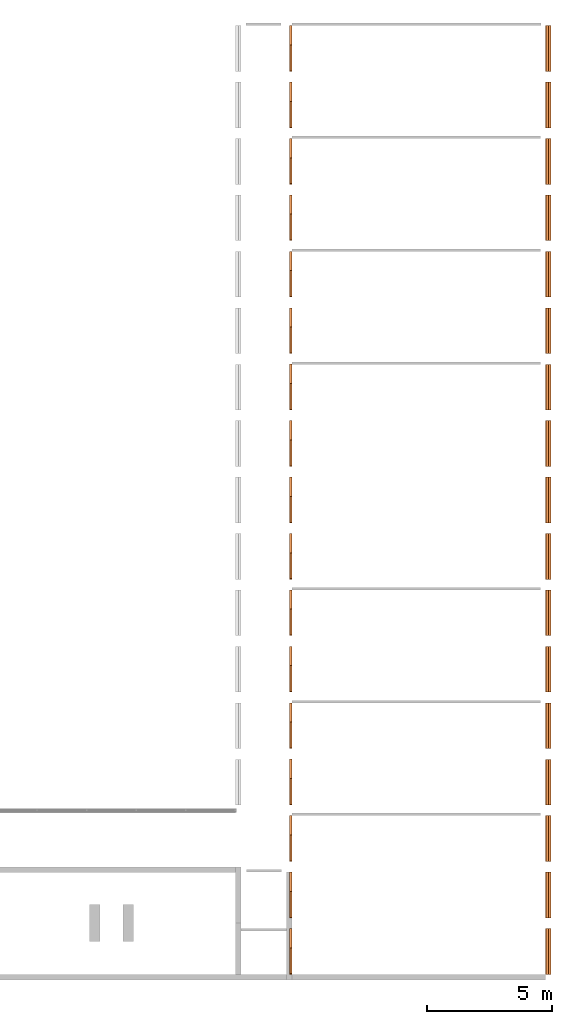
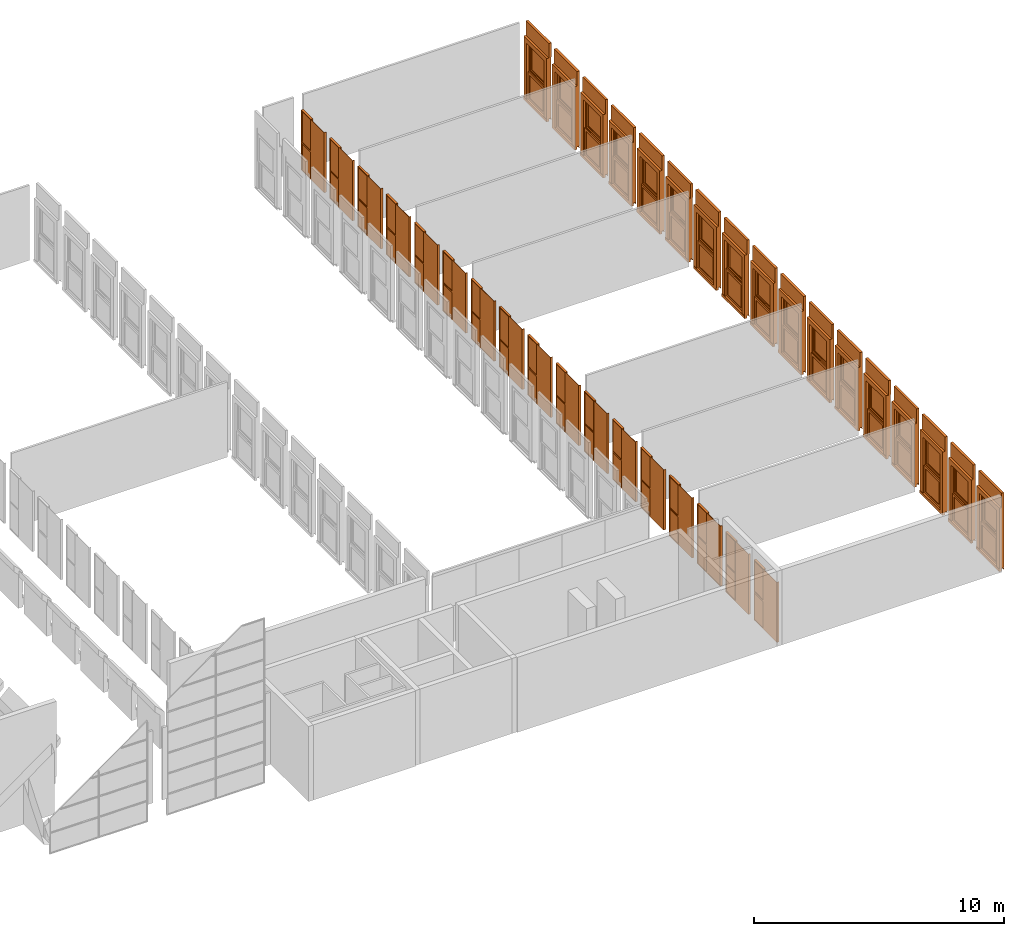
# One storey, part 16 of 16: 34 proxies.
"""IFC2X3 building model written with IfcOpenShell, lengths in millimetres."""

from ifc_helpers import new_model, entity, si_unit, converted_unit, derived_unit, direction, frame, frame_2d, origin, origin_2d_with_axis, place, context, subcontext, project, spatial, polyline, rectangle, outline, extrude, source, transform, mapped, material, material_list, type_object, type_shapes, element, save


model = new_model("IFC2X3")

# Units and contexts
model_context = context("Model", 3, precision=0.01, world=origin(), true_north=direction((6.12303176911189e-17, 1.0)))
body_context = subcontext(model_context, "Body", "Model", "MODEL_VIEW")
ifc_project = project(units=[si_unit("LENGTHUNIT", "METRE", prefix="MILLI"), si_unit("AREAUNIT", "SQUARE_METRE"), si_unit("VOLUMEUNIT", "CUBIC_METRE"), converted_unit("PLANEANGLEUNIT", "DEGREE", entity("IfcRatioMeasure", 0.0174532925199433), si_unit("PLANEANGLEUNIT", "RADIAN"), dimensions=[0, 0, 0, 0, 0, 0, 0]), si_unit("MASSUNIT", "GRAM", prefix="KILO"), derived_unit("MASSDENSITYUNIT", [(si_unit("MASSUNIT", "GRAM", prefix="KILO"), 1), (si_unit("LENGTHUNIT", "METRE"), -3)]), derived_unit("MOMENTOFINERTIAUNIT", [(si_unit("LENGTHUNIT", "METRE"), 4)]), si_unit("TIMEUNIT", "SECOND"), si_unit("FREQUENCYUNIT", "HERTZ"), si_unit("THERMODYNAMICTEMPERATUREUNIT", "DEGREE_CELSIUS"), derived_unit("THERMALTRANSMITTANCEUNIT", [(si_unit("MASSUNIT", "GRAM", prefix="KILO"), 1), (si_unit("THERMODYNAMICTEMPERATUREUNIT", "KELVIN"), -1), (si_unit("TIMEUNIT", "SECOND"), -3)]), derived_unit("VOLUMETRICFLOWRATEUNIT", [(si_unit("LENGTHUNIT", "METRE"), 3), (si_unit("TIMEUNIT", "SECOND"), -1)]), si_unit("ELECTRICCURRENTUNIT", "AMPERE"), si_unit("ELECTRICVOLTAGEUNIT", "VOLT"), si_unit("POWERUNIT", "WATT"), si_unit("FORCEUNIT", "NEWTON", prefix="KILO"), si_unit("ILLUMINANCEUNIT", "LUX"), si_unit("LUMINOUSFLUXUNIT", "LUMEN"), si_unit("LUMINOUSINTENSITYUNIT", "CANDELA"), derived_unit("USERDEFINED", [(si_unit("MASSUNIT", "GRAM", prefix="KILO"), -1), (si_unit("LENGTHUNIT", "METRE"), -2), (si_unit("TIMEUNIT", "SECOND"), 3), (si_unit("LUMINOUSFLUXUNIT", "LUMEN"), 1)]), derived_unit("LINEARVELOCITYUNIT", [(si_unit("LENGTHUNIT", "METRE"), 1), (si_unit("TIMEUNIT", "SECOND"), -1)]), si_unit("PRESSUREUNIT", "PASCAL"), derived_unit("USERDEFINED", [(si_unit("LENGTHUNIT", "METRE"), -2), (si_unit("MASSUNIT", "GRAM", prefix="KILO"), 1), (si_unit("TIMEUNIT", "SECOND"), -2)]), derived_unit("LINEARFORCEUNIT", [(si_unit("MASSUNIT", "GRAM", prefix="KILO"), 1), (si_unit("LENGTHUNIT", "METRE"), 1), (si_unit("TIMEUNIT", "SECOND"), -2), (si_unit("LENGTHUNIT", "METRE"), -1)]), derived_unit("PLANARFORCEUNIT", [(si_unit("MASSUNIT", "GRAM", prefix="KILO"), 1), (si_unit("LENGTHUNIT", "METRE"), 1), (si_unit("TIMEUNIT", "SECOND"), -2), (si_unit("LENGTHUNIT", "METRE"), -2)])], contexts=[model_context])

# Site, building, storey
site_placement = place(None, frame((10627.5135316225, 21939.0796949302, 0.0)))
site = spatial("IfcSite", under=ifc_project, at=site_placement, Name="Default", CompositionType="ELEMENT")
building_placement = place(site_placement, origin())
building = spatial("IfcBuilding", under=site, at=building_placement, CompositionType="ELEMENT")
storey_placement = place(building_placement, frame((0.0, 0.0, 3660.0)))
storey = spatial("IfcBuildingStorey", under=building, at=storey_placement, Name="R+1", CompositionType="ELEMENT", Elevation=3660.0)

# Proxies
ifc_material_1 = material(Name="PVC, Flexible")
ifc_material_2 = material(Name="Glass")
ifc_material_list_1 = material_list([ifc_material_1, ifc_material_2])
building_element_proxy_type_1 = type_object("IfcBuildingElementProxyType", Name="FENETRE.dwg:Fenetre ext 296+70", PredefinedType="NOTDEFINED", material=ifc_material_1)
shared_shape_1 = source(origin(), body_context, "Body", "SweptSolid", [
    extrude(rectangle(XDim=112.500043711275, YDim=1829.99999999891, at=origin_2d_with_axis()), frame((-10.4189092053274, -56.2500218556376, 2960.0), z_axis=(0.0, 0.0, 1.0), x_axis=(0.0, 1.0, 0.0)), (0.0, 0.0, 1.0), 700.0),
    extrude(outline(polyline([(27.5499763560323, -64.4170494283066), (47.5499763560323, -64.4170494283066), (47.5499763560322, -59.4170494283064), (28.7622905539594, -59.4170494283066), (7.54997635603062, 46.6946996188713), (-42.4500236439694, 46.6946996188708), (-42.4500236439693, 32.9446996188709), (-39.9500236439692, 32.9446996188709), (-39.9500236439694, 44.1946996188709), (5.83789859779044, 44.1946996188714), (27.5499763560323, -64.4170494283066)])), frame((-925.418909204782, -66.917049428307, -47.5499763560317), z_axis=(1.0, 0.0, 0.0), x_axis=(0.0, 0.0, 1.0)), (0.0, 0.0, 1.0), 1829.99999999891),
    extrude(outline(polyline([(-54.506636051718, -66.1431859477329), (58.0333803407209, -66.1431859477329), (54.4666704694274, 67.6422744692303), (-57.9934147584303, 64.6440974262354), (-54.506636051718, -66.1431859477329)])), frame((-925.418909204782, 56.2500218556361, -63.833312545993), z_axis=(1.0, 0.0, 0.0), x_axis=(0.0, -0.999644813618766, 0.0266504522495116)), (0.0, 0.0, 1.0), 1829.99999999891),
    extrude(outline(polyline([(-97.0007159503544, -55.5555555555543), (5.85738417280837, -55.5555555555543), (95.357341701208, -55.5555555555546), (95.357341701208, -45.5555555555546), (105.357341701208, -45.5555555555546), (105.357341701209, 174.444444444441), (-106.642659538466, 174.444444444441), (-106.642659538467, -45.5555555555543), (-97.0007159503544, -45.5555555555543), (-97.0007159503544, -55.5555555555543)])), frame((849.025535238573, -5.85738417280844, 0.0), z_axis=(0.0, 0.0, 1.0), x_axis=(0.0, 1.0, 0.0)), (0.0, 0.0, 1.0), 2960.0),
    extrude(rectangle(XDim=1369.99999999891, YDim=199.499957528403, at=origin_2d_with_axis()), frame((-10.4189092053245, -0.250021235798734, 2730.0), z_axis=(0.0, 0.0, 1.0), x_axis=(-1.0, 0.0, 0.0)), (0.0, 0.0, 1.0), 230.000000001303),
    extrude(outline(polyline([(-55.5555555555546, 97.0007159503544), (-55.5555555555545, -5.85738417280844), (-55.5555555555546, -95.357341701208), (-45.5555555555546, -95.3573417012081), (-45.5555555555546, -105.357341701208), (174.444444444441, -105.357341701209), (174.444444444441, 106.642659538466), (-45.5555555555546, 106.642659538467), (-45.5555555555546, 97.0007159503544), (-55.5555555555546, 97.0007159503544)])), frame((-869.863353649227, -5.85738417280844, 0.0), z_axis=(0.0, 0.0, -1.0), x_axis=(1.0, 0.0, 0.0)), (0.0, 0.0, -1.0), 2960.0),
    extrude(rectangle(XDim=1079.99999999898, YDim=1.0, at=origin_2d_with_axis()), frame((-10.4189092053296, 19.5, 130.0), z_axis=(0.0, 0.0, 1.0), x_axis=(-1.0, 0.0, 0.0)), (0.0, 0.0, 1.0), 1120.00000000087),
    extrude(rectangle(XDim=1079.99999999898, YDim=1.0, at=origin_2d_with_axis()), frame((-10.4189092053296, 30.5, 130.0), z_axis=(0.0, 0.0, 1.0), x_axis=(-1.0, 0.0, 0.0)), (0.0, 0.0, 1.0), 1120.00000000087),
    extrude(rectangle(XDim=1079.99999999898, YDim=1.0, at=frame_2d((0.0, 4.21884749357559e-15), x_axis=(1.0, 0.0))), frame((-10.4189092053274, -69.5, 1465.0), z_axis=(0.0, 0.0, 1.0), x_axis=(-1.0, 0.0, 0.0)), (0.0, 0.0, 1.0), 1120.0),
    extrude(rectangle(XDim=1079.99999999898, YDim=0.999999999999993, at=frame_2d((0.0, -8.46545056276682e-15), x_axis=(1.0, 0.0))), frame((-10.4189092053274, -80.5, 1465.0), z_axis=(0.0, 0.0, 1.0), x_axis=(-1.0, 0.0, 0.0)), (0.0, 0.0, 1.0), 1120.00000000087),
    extrude(outline(polyline([(-685.0, -1365.0), (0.0, -1365.0), (685.0, -1365.0), (685.0, 1365.0), (0.0, 1365.0), (-685.0, 1365.0), (-685.0, -1365.0)]), holes=[polyline([(-640.0, -1320.0), (-640.0, -45.0), (0.0, -45.0), (640.0, -45.0), (640.0, -1320.0), (0.0, -1320.0), (-640.0, -1320.0)]), polyline([(-640.0, 40.0), (-640.0, 1315.0), (0.0, 1315.0), (640.0, 1315.0), (640.0, 40.0), (0.0, 40.0), (-640.0, 40.0)])]), frame((-10.4189092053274, -50.0, 1365.0), z_axis=(0.0, 1.0, 0.0), x_axis=(1.0, 0.0, 0.0)), (0.0, 0.0, 1.0), 50.0),
    extrude(outline(polyline([(-655.0, -667.500000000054), (655.0, -667.500000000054), (655.0, 667.500000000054), (-655.0, 667.500000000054), (-655.0, -667.500000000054)]), holes=[polyline([(-540.0, 552.500000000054), (540.0, 552.500000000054), (540.0, -567.500000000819), (-540.0, -567.500000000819), (-540.0, 552.500000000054)])]), frame((-10.4189092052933, 0.0, 697.500000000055), z_axis=(0.0, 1.0, 0.0), x_axis=(-1.0, 0.0, 0.0)), (0.0, 0.0, 1.0), 50.0),
    extrude(outline(polyline([(-655.0, -667.500000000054), (655.0, -667.500000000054), (655.0, 667.500000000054), (-655.0, 667.500000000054), (-655.0, -667.500000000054)]), holes=[polyline([(-540.0, 552.500000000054), (540.0, 552.500000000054), (540.0, -567.500000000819), (-540.0, -567.500000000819), (-540.0, 552.500000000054)])]), frame((-10.4189092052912, -100.0, 2032.50000000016), z_axis=(0.0, 1.0, 0.0), x_axis=(-1.0, 0.0, 0.0)), (0.0, 0.0, 1.0), 50.0),
])
type_shapes(building_element_proxy_type_1, [shared_shape_1])
proxy_1_placement = place(storey_placement, frame((63883.8747193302, 15361.3392142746, 0.0), z_axis=(0.0, 0.0, 1.0), x_axis=(0.0, 1.0, 0.0)))
element("IfcBuildingElementProxy", 1, at=proxy_1_placement, inside=storey, type_object=building_element_proxy_type_1, material=ifc_material_list_1, Name="FENETRE.dwg:Fenetre ext 296+70", ObjectType="FENETRE.dwg:Fenetre ext 296+70", context=body_context, shape_type="MappedRepresentation", body=[
    mapped(shared_shape_1, transform((0.0, 0.0, 0.0), scale=1.0)),
])
ifc_material_list_2 = material_list([ifc_material_1, ifc_material_2])
proxy_2_placement = place(storey_placement, frame((63883.8747193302, 13101.3392142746, 0.0), z_axis=(0.0, 0.0, 1.0), x_axis=(0.0, 1.0, 0.0)))
element("IfcBuildingElementProxy", 2, at=proxy_2_placement, inside=storey, type_object=building_element_proxy_type_1, material=ifc_material_list_2, Name="FENETRE.dwg:Fenetre ext 296+70", ObjectType="FENETRE.dwg:Fenetre ext 296+70", context=body_context, shape_type="MappedRepresentation", body=[
    mapped(shared_shape_1, transform((0.0, 0.0, 0.0), scale=1.0)),
])
ifc_material_list_3 = material_list([ifc_material_1, ifc_material_2])
proxy_3_placement = place(storey_placement, frame((63883.8747193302, 10841.3392142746, 0.0), z_axis=(0.0, 0.0, 1.0), x_axis=(0.0, 1.0, 0.0)))
element("IfcBuildingElementProxy", 3, at=proxy_3_placement, inside=storey, type_object=building_element_proxy_type_1, material=ifc_material_list_3, Name="FENETRE.dwg:Fenetre ext 296+70", ObjectType="FENETRE.dwg:Fenetre ext 296+70", context=body_context, shape_type="MappedRepresentation", body=[
    mapped(shared_shape_1, transform((0.0, 0.0, 0.0), scale=1.0)),
])
ifc_material_list_4 = material_list([ifc_material_1, ifc_material_2])
proxy_4_placement = place(storey_placement, frame((63883.8747193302, 8581.33921427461, 0.0), z_axis=(0.0, 0.0, 1.0), x_axis=(0.0, 1.0, 0.0)))
element("IfcBuildingElementProxy", 4, at=proxy_4_placement, inside=storey, type_object=building_element_proxy_type_1, material=ifc_material_list_4, Name="FENETRE.dwg:Fenetre ext 296+70", ObjectType="FENETRE.dwg:Fenetre ext 296+70", context=body_context, shape_type="MappedRepresentation", body=[
    mapped(shared_shape_1, transform((0.0, 0.0, 0.0), scale=1.0)),
])
ifc_material_list_5 = material_list([ifc_material_1, ifc_material_2])
proxy_5_placement = place(storey_placement, frame((63883.8747193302, 6321.33921427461, 0.0), z_axis=(0.0, 0.0, 1.0), x_axis=(0.0, 1.0, 0.0)))
element("IfcBuildingElementProxy", 5, at=proxy_5_placement, inside=storey, type_object=building_element_proxy_type_1, material=ifc_material_list_5, Name="FENETRE.dwg:Fenetre ext 296+70", ObjectType="FENETRE.dwg:Fenetre ext 296+70", context=body_context, shape_type="MappedRepresentation", body=[
    mapped(shared_shape_1, transform((0.0, 0.0, 0.0), scale=1.0)),
])
ifc_material_list_6 = material_list([ifc_material_1, ifc_material_2])
proxy_6_placement = place(storey_placement, frame((63883.8747193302, 4061.33921427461, 0.0), z_axis=(0.0, 0.0, 1.0), x_axis=(0.0, 1.0, 0.0)))
element("IfcBuildingElementProxy", 6, at=proxy_6_placement, inside=storey, type_object=building_element_proxy_type_1, material=ifc_material_list_6, Name="FENETRE.dwg:Fenetre ext 296+70", ObjectType="FENETRE.dwg:Fenetre ext 296+70", context=body_context, shape_type="MappedRepresentation", body=[
    mapped(shared_shape_1, transform((0.0, 0.0, 0.0), scale=1.0)),
])
ifc_material_list_7 = material_list([ifc_material_1, ifc_material_2])
proxy_7_placement = place(storey_placement, frame((63883.8747193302, 1801.33921427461, 0.0), z_axis=(0.0, 0.0, 1.0), x_axis=(0.0, 1.0, 0.0)))
element("IfcBuildingElementProxy", 7, at=proxy_7_placement, inside=storey, type_object=building_element_proxy_type_1, material=ifc_material_list_7, Name="FENETRE.dwg:Fenetre ext 296+70", ObjectType="FENETRE.dwg:Fenetre ext 296+70", context=body_context, shape_type="MappedRepresentation", body=[
    mapped(shared_shape_1, transform((0.0, 0.0, 0.0), scale=1.0)),
])
ifc_material_list_8 = material_list([ifc_material_1, ifc_material_2])
proxy_8_placement = place(storey_placement, frame((63883.8747193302, -458.660785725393, 0.0), z_axis=(0.0, 0.0, 1.0), x_axis=(0.0, 1.0, 0.0)))
element("IfcBuildingElementProxy", 8, at=proxy_8_placement, inside=storey, type_object=building_element_proxy_type_1, material=ifc_material_list_8, Name="FENETRE.dwg:Fenetre ext 296+70", ObjectType="FENETRE.dwg:Fenetre ext 296+70", context=body_context, shape_type="MappedRepresentation", body=[
    mapped(shared_shape_1, transform((0.0, 0.0, 0.0), scale=1.0)),
])
ifc_material_list_9 = material_list([ifc_material_1, ifc_material_2])
proxy_9_placement = place(storey_placement, frame((63883.8747193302, -2718.66078572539, 0.0), z_axis=(0.0, 0.0, 1.0), x_axis=(0.0, 1.0, 0.0)))
element("IfcBuildingElementProxy", 9, at=proxy_9_placement, inside=storey, type_object=building_element_proxy_type_1, material=ifc_material_list_9, Name="FENETRE.dwg:Fenetre ext 296+70", ObjectType="FENETRE.dwg:Fenetre ext 296+70", context=body_context, shape_type="MappedRepresentation", body=[
    mapped(shared_shape_1, transform((0.0, 0.0, 0.0), scale=1.0)),
])
ifc_material_list_10 = material_list([ifc_material_1, ifc_material_2])
proxy_10_placement = place(storey_placement, frame((63883.8747193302, -4978.6607857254, 0.0), z_axis=(0.0, 0.0, 1.0), x_axis=(0.0, 1.0, 0.0)))
element("IfcBuildingElementProxy", 10, at=proxy_10_placement, inside=storey, type_object=building_element_proxy_type_1, material=ifc_material_list_10, Name="FENETRE.dwg:Fenetre ext 296+70", ObjectType="FENETRE.dwg:Fenetre ext 296+70", context=body_context, shape_type="MappedRepresentation", body=[
    mapped(shared_shape_1, transform((0.0, 0.0, 0.0), scale=1.0)),
])
ifc_material_list_11 = material_list([ifc_material_1, ifc_material_2])
proxy_11_placement = place(storey_placement, frame((63883.8747193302, -7238.6607857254, 0.0), z_axis=(0.0, 0.0, 1.0), x_axis=(0.0, 1.0, 0.0)))
element("IfcBuildingElementProxy", 11, at=proxy_11_placement, inside=storey, type_object=building_element_proxy_type_1, material=ifc_material_list_11, Name="FENETRE.dwg:Fenetre ext 296+70", ObjectType="FENETRE.dwg:Fenetre ext 296+70", context=body_context, shape_type="MappedRepresentation", body=[
    mapped(shared_shape_1, transform((0.0, 0.0, 0.0), scale=1.0)),
])
ifc_material_list_12 = material_list([ifc_material_1, ifc_material_2])
proxy_12_placement = place(storey_placement, frame((63883.8747193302, -9498.6607857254, 0.0), z_axis=(0.0, 0.0, 1.0), x_axis=(0.0, 1.0, 0.0)))
element("IfcBuildingElementProxy", 12, at=proxy_12_placement, inside=storey, type_object=building_element_proxy_type_1, material=ifc_material_list_12, Name="FENETRE.dwg:Fenetre ext 296+70", ObjectType="FENETRE.dwg:Fenetre ext 296+70", context=body_context, shape_type="MappedRepresentation", body=[
    mapped(shared_shape_1, transform((0.0, 0.0, 0.0), scale=1.0)),
])
ifc_material_list_13 = material_list([ifc_material_1, ifc_material_2])
proxy_13_placement = place(storey_placement, frame((63883.8747193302, -11758.6607857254, 0.0), z_axis=(0.0, 0.0, 1.0), x_axis=(0.0, 1.0, 0.0)))
element("IfcBuildingElementProxy", 13, at=proxy_13_placement, inside=storey, type_object=building_element_proxy_type_1, material=ifc_material_list_13, Name="FENETRE.dwg:Fenetre ext 296+70", ObjectType="FENETRE.dwg:Fenetre ext 296+70", context=body_context, shape_type="MappedRepresentation", body=[
    mapped(shared_shape_1, transform((0.0, 0.0, 0.0), scale=1.0)),
])
ifc_material_list_14 = material_list([ifc_material_1, ifc_material_2])
proxy_14_placement = place(storey_placement, frame((63883.8747193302, -14018.6607857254, 0.0), z_axis=(0.0, 0.0, 1.0), x_axis=(0.0, 1.0, 0.0)))
element("IfcBuildingElementProxy", 14, at=proxy_14_placement, inside=storey, type_object=building_element_proxy_type_1, material=ifc_material_list_14, Name="FENETRE.dwg:Fenetre ext 296+70", ObjectType="FENETRE.dwg:Fenetre ext 296+70", context=body_context, shape_type="MappedRepresentation", body=[
    mapped(shared_shape_1, transform((0.0, 0.0, 0.0), scale=1.0)),
])
ifc_material_list_15 = material_list([ifc_material_1, ifc_material_2])
proxy_15_placement = place(storey_placement, frame((63883.8747193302, -16278.6607857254, 0.0), z_axis=(0.0, 0.0, 1.0), x_axis=(0.0, 1.0, 0.0)))
element("IfcBuildingElementProxy", 15, at=proxy_15_placement, inside=storey, type_object=building_element_proxy_type_1, material=ifc_material_list_15, Name="FENETRE.dwg:Fenetre ext 296+70", ObjectType="FENETRE.dwg:Fenetre ext 296+70", context=body_context, shape_type="MappedRepresentation", body=[
    mapped(shared_shape_1, transform((0.0, 0.0, 0.0), scale=1.0)),
])
ifc_material_list_16 = material_list([ifc_material_1, ifc_material_2])
proxy_16_placement = place(storey_placement, frame((63883.8747193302, -18538.6607857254, 0.0), z_axis=(0.0, 0.0, 1.0), x_axis=(0.0, 1.0, 0.0)))
element("IfcBuildingElementProxy", 16, at=proxy_16_placement, inside=storey, type_object=building_element_proxy_type_1, material=ifc_material_list_16, Name="FENETRE.dwg:Fenetre ext 296+70", ObjectType="FENETRE.dwg:Fenetre ext 296+70", context=body_context, shape_type="MappedRepresentation", body=[
    mapped(shared_shape_1, transform((0.0, 0.0, 0.0), scale=1.0)),
])
ifc_material_list_17 = material_list([ifc_material_1, ifc_material_2])
proxy_17_placement = place(storey_placement, frame((63883.8747193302, -20798.6607857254, 0.0), z_axis=(0.0, 0.0, 1.0), x_axis=(0.0, 1.0, 0.0)))
element("IfcBuildingElementProxy", 17, at=proxy_17_placement, inside=storey, type_object=building_element_proxy_type_1, material=ifc_material_list_17, Name="FENETRE.dwg:Fenetre ext 296+70", ObjectType="FENETRE.dwg:Fenetre ext 296+70", context=body_context, shape_type="MappedRepresentation", body=[
    mapped(shared_shape_1, transform((0.0, 0.0, 0.0), scale=1.0)),
])
ifc_material_3 = material(Name="Plywood, Sheathing")
ifc_material_list_18 = material_list([ifc_material_3, ifc_material_2])
building_element_proxy_type_2 = type_object("IfcBuildingElementProxyType", Name="Porte noire:Porte noire", PredefinedType="NOTDEFINED", material=ifc_material_3)
shared_shape_2 = source(origin(), body_context, "Body", "SweptSolid", [
    extrude(rectangle(XDim=23.0000000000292, YDim=100.0, at=frame_2d((-1.35891298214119e-13, 0.0), x_axis=(1.0, 0.0))), frame((-950.918997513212, 50.0, 8.73189890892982), z_axis=(0.0, 0.0, 1.0), x_axis=(-1.0, 0.0, 0.0)), (0.0, 0.0, 1.0), 2933.34951039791),
    extrude(rectangle(XDim=1038.0, YDim=19.0, at=frame_2d((0.0, 7.99360577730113e-15), x_axis=(1.0, 0.0))), frame((-420.418997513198, 87.5, 43.7318989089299), z_axis=(0.0, 0.0, 1.0), x_axis=(-1.0, 0.0, 0.0)), (0.0, 0.0, 1.0), 2898.5),
    extrude(rectangle(XDim=1775.0, YDim=100.0, at=origin_2d_with_axis()), frame((-51.9189975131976, 50.0, 8.73189890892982), z_axis=(0.0, 0.0, 1.0), x_axis=(-1.0, 0.0, 0.0)), (0.0, 0.0, 1.0), 35.0000000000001),
    extrude(rectangle(XDim=35.0000000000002, YDim=100.0, at=origin_2d_with_axis()), frame((853.081002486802, 50.0, 8.73189890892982), z_axis=(0.0, 0.0, 1.0), x_axis=(-1.0, 0.0, 0.0)), (0.0, 0.0, 1.0), 2898.5),
    extrude(rectangle(XDim=740.0, YDim=100.0, at=origin_2d_with_axis()), frame((500.581002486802, 50.0, 2907.23189890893), z_axis=(0.0, 0.0, 1.0), x_axis=(-1.0, 0.0, 0.0)), (0.0, 0.0, 1.0), 35.0000000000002),
    extrude(rectangle(XDim=31.9999999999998, YDim=100.0, at=origin_2d_with_axis()), frame((114.581002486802, 50.0, 43.7318989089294), z_axis=(0.0, 0.0, 1.0), x_axis=(-1.0, 0.0, 0.0)), (0.0, 0.0, 1.0), 2898.5),
    extrude(rectangle(XDim=705.0, YDim=100.0, at=origin_2d_with_axis()), frame((483.081002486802, 50.0, 1343.73189890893), z_axis=(0.0, 0.0, 1.0), x_axis=(-1.0, 0.0, 0.0)), (0.0, 0.0, 1.0), 55.0),
    extrude(outline(polyline([(-352.5, -650.0), (352.5, -650.0), (352.5, 650.0), (-352.5, 650.0), (-352.5, -650.0)]), holes=[polyline([(342.5, 640.0), (342.5, -640.0), (-342.5, -640.0), (-342.5, 640.0), (342.5, 640.0)])]), frame((483.081002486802, 10.0, 693.73189890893), z_axis=(0.0, 1.0, 0.0), x_axis=(1.0, 0.0, 0.0)), (0.0, 0.0, 1.0), 70.0),
    extrude(outline(polyline([(-754.25, -352.5), (754.25, -352.5), (754.25, 352.5), (-754.25, 352.5), (-754.25, -352.5)]), holes=[polyline([(744.25, 342.5), (744.25, -342.5), (-744.25, -342.5), (-744.25, 342.5), (744.25, 342.5)])]), frame((483.081002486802, 10.0, 2152.98189890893), z_axis=(0.0, 1.0, 0.0), x_axis=(0.0, 0.0, 1.0)), (0.0, 0.0, 1.0), 70.0),
    extrude(outline(polyline([(-640.0, -342.5), (640.0, -342.5), (640.0, 342.5), (-640.0, 342.5), (-640.0, -342.5)]), holes=[polyline([(630.0, 332.5), (630.0, -332.5), (-630.0, -332.5), (-630.0, 332.5), (630.0, 332.5)])]), frame((483.081002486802, 77.0, 693.731898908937), z_axis=(0.0, 1.0, 0.0), x_axis=(0.0, 0.0, 1.0)), (0.0, 0.0, 1.0), 3.99999999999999),
    extrude(outline(polyline([(-744.25, -342.5), (744.25, -342.5), (744.25, 342.5), (-744.25, 342.5), (-744.25, -342.5)]), holes=[polyline([(734.25, 332.5), (734.25, -332.5), (-734.25, -332.5), (-734.25, 332.5), (734.25, 332.5)])]), frame((483.081002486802, 77.0, 2152.98189890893), z_axis=(0.0, 1.0, 0.0), x_axis=(0.0, 0.0, 1.0)), (0.0, 0.0, 1.0), 3.99999999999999),
    extrude(outline(polyline([(-640.0, -342.5), (640.0, -342.5), (640.0, 342.5), (-640.0, 342.5), (-640.0, -342.5)]), holes=[polyline([(630.0, 332.5), (630.0, -332.5), (-630.0, -332.5), (-630.0, 332.5), (630.0, 332.5)])]), frame((483.081002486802, 10.0, 693.782575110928), z_axis=(0.0, 1.0, 0.0), x_axis=(0.0, 0.0, 1.0)), (0.0, 0.0, 1.0), 5.0),
    extrude(outline(polyline([(-744.25, -342.5), (744.25, -342.5), (744.25, 342.5), (-744.25, 342.5), (-744.25, -342.5)]), holes=[polyline([(734.25, 332.5), (734.25, -332.5), (-734.25, -332.5), (-734.25, 332.5), (734.25, 332.5)])]), frame((483.081002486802, 10.0, 2153.03257511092), z_axis=(0.0, 1.0, 0.0), x_axis=(0.0, 0.0, 1.0)), (0.0, 0.0, 1.0), 5.0),
    extrude(rectangle(XDim=665.0, YDim=2.0, at=frame_2d((0.0, 8.43769498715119e-15), x_axis=(1.0, 0.0))), frame((483.081002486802, 79.0, 1418.73189890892), z_axis=(0.0, 0.0, 1.0), x_axis=(-1.0, 0.0, 0.0)), (0.0, 0.0, 1.0), 1468.50000000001),
    extrude(rectangle(XDim=665.0, YDim=2.0, at=frame_2d((0.0, 8.43769498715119e-15), x_axis=(1.0, 0.0))), frame((483.081002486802, 79.0, 63.7318989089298), z_axis=(0.0, 0.0, 1.0), x_axis=(-1.0, 0.0, 0.0)), (0.0, 0.0, 1.0), 1260.0),
    extrude(rectangle(XDim=665.0, YDim=2.0, at=frame_2d((0.0, 1.0547118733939e-15), x_axis=(1.0, 0.0))), frame((483.081002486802, 13.0, 1418.78257511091), z_axis=(0.0, 0.0, 1.0), x_axis=(-1.0, 0.0, 0.0)), (0.0, 0.0, 1.0), 1468.50000000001),
    extrude(rectangle(XDim=665.0, YDim=2.0, at=frame_2d((0.0, 1.0547118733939e-15), x_axis=(1.0, 0.0))), frame((483.081002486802, 13.0, 63.7825751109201), z_axis=(0.0, 0.0, 1.0), x_axis=(-1.0, 0.0, 0.0)), (0.0, 0.0, 1.0), 1260.0),
])
type_shapes(building_element_proxy_type_2, [shared_shape_2])
proxy_18_placement = place(storey_placement, frame((53617.1264727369, -20762.660697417, 0.0), z_axis=(0.0, 0.0, 1.0), x_axis=(0.0, 1.0, 0.0)))
element("IfcBuildingElementProxy", 18, at=proxy_18_placement, inside=storey, type_object=building_element_proxy_type_2, material=ifc_material_list_18, Name="Porte noire:Porte noire", ObjectType="Porte noire:Porte noire", context=body_context, shape_type="MappedRepresentation", body=[
    mapped(shared_shape_2, transform((0.0, 0.0, 0.0), scale=1.0)),
])
ifc_material_list_19 = material_list([ifc_material_3, ifc_material_2])
proxy_19_placement = place(storey_placement, frame((53617.1264727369, -18502.660697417, 0.0), z_axis=(0.0, 0.0, 1.0), x_axis=(0.0, 1.0, 0.0)))
element("IfcBuildingElementProxy", 19, at=proxy_19_placement, inside=storey, type_object=building_element_proxy_type_2, material=ifc_material_list_19, Name="Porte noire:Porte noire", ObjectType="Porte noire:Porte noire", context=body_context, shape_type="MappedRepresentation", body=[
    mapped(shared_shape_2, transform((0.0, 0.0, 0.0), scale=1.0)),
])
ifc_material_list_20 = material_list([ifc_material_3, ifc_material_2])
proxy_20_placement = place(storey_placement, frame((53617.1264727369, -16242.660697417, 0.0), z_axis=(0.0, 0.0, 1.0), x_axis=(0.0, 1.0, 0.0)))
element("IfcBuildingElementProxy", 20, at=proxy_20_placement, inside=storey, type_object=building_element_proxy_type_2, material=ifc_material_list_20, Name="Porte noire:Porte noire", ObjectType="Porte noire:Porte noire", context=body_context, shape_type="MappedRepresentation", body=[
    mapped(shared_shape_2, transform((0.0, 0.0, 0.0), scale=1.0)),
])
ifc_material_list_21 = material_list([ifc_material_3, ifc_material_2])
proxy_21_placement = place(storey_placement, frame((53617.1264727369, -13982.660697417, 0.0), z_axis=(0.0, 0.0, 1.0), x_axis=(0.0, 1.0, 0.0)))
element("IfcBuildingElementProxy", 21, at=proxy_21_placement, inside=storey, type_object=building_element_proxy_type_2, material=ifc_material_list_21, Name="Porte noire:Porte noire", ObjectType="Porte noire:Porte noire", context=body_context, shape_type="MappedRepresentation", body=[
    mapped(shared_shape_2, transform((0.0, 0.0, 0.0), scale=1.0)),
])
ifc_material_list_22 = material_list([ifc_material_3, ifc_material_2])
proxy_22_placement = place(storey_placement, frame((53617.1264727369, -11722.660697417, 0.0), z_axis=(0.0, 0.0, 1.0), x_axis=(0.0, 1.0, 0.0)))
element("IfcBuildingElementProxy", 22, at=proxy_22_placement, inside=storey, type_object=building_element_proxy_type_2, material=ifc_material_list_22, Name="Porte noire:Porte noire", ObjectType="Porte noire:Porte noire", context=body_context, shape_type="MappedRepresentation", body=[
    mapped(shared_shape_2, transform((0.0, 0.0, 0.0), scale=1.0)),
])
ifc_material_list_23 = material_list([ifc_material_3, ifc_material_2])
proxy_23_placement = place(storey_placement, frame((53617.1264727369, -9462.660697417, 0.0), z_axis=(0.0, 0.0, 1.0), x_axis=(0.0, 1.0, 0.0)))
element("IfcBuildingElementProxy", 23, at=proxy_23_placement, inside=storey, type_object=building_element_proxy_type_2, material=ifc_material_list_23, Name="Porte noire:Porte noire", ObjectType="Porte noire:Porte noire", context=body_context, shape_type="MappedRepresentation", body=[
    mapped(shared_shape_2, transform((0.0, 0.0, 0.0), scale=1.0)),
])
ifc_material_list_24 = material_list([ifc_material_3, ifc_material_2])
proxy_24_placement = place(storey_placement, frame((53617.1264727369, -7202.660697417, 0.0), z_axis=(0.0, 0.0, 1.0), x_axis=(0.0, 1.0, 0.0)))
element("IfcBuildingElementProxy", 24, at=proxy_24_placement, inside=storey, type_object=building_element_proxy_type_2, material=ifc_material_list_24, Name="Porte noire:Porte noire", ObjectType="Porte noire:Porte noire", context=body_context, shape_type="MappedRepresentation", body=[
    mapped(shared_shape_2, transform((0.0, 0.0, 0.0), scale=1.0)),
])
ifc_material_list_25 = material_list([ifc_material_3, ifc_material_2])
proxy_25_placement = place(storey_placement, frame((53617.1264727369, -4942.660697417, 0.0), z_axis=(0.0, 0.0, 1.0), x_axis=(0.0, 1.0, 0.0)))
element("IfcBuildingElementProxy", 25, at=proxy_25_placement, inside=storey, type_object=building_element_proxy_type_2, material=ifc_material_list_25, Name="Porte noire:Porte noire", ObjectType="Porte noire:Porte noire", context=body_context, shape_type="MappedRepresentation", body=[
    mapped(shared_shape_2, transform((0.0, 0.0, 0.0), scale=1.0)),
])
ifc_material_list_26 = material_list([ifc_material_3, ifc_material_2])
proxy_26_placement = place(storey_placement, frame((53617.1264727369, -2682.660697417, 0.0), z_axis=(0.0, 0.0, 1.0), x_axis=(0.0, 1.0, 0.0)))
element("IfcBuildingElementProxy", 26, at=proxy_26_placement, inside=storey, type_object=building_element_proxy_type_2, material=ifc_material_list_26, Name="Porte noire:Porte noire", ObjectType="Porte noire:Porte noire", context=body_context, shape_type="MappedRepresentation", body=[
    mapped(shared_shape_2, transform((0.0, 0.0, 0.0), scale=1.0)),
])
ifc_material_list_27 = material_list([ifc_material_3, ifc_material_2])
proxy_27_placement = place(storey_placement, frame((53617.1264727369, -422.660697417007, 0.0), z_axis=(0.0, 0.0, 1.0), x_axis=(0.0, 1.0, 0.0)))
element("IfcBuildingElementProxy", 27, at=proxy_27_placement, inside=storey, type_object=building_element_proxy_type_2, material=ifc_material_list_27, Name="Porte noire:Porte noire", ObjectType="Porte noire:Porte noire", context=body_context, shape_type="MappedRepresentation", body=[
    mapped(shared_shape_2, transform((0.0, 0.0, 0.0), scale=1.0)),
])
ifc_material_list_28 = material_list([ifc_material_3, ifc_material_2])
proxy_28_placement = place(storey_placement, frame((53617.1264727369, 1837.33930258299, 0.0), z_axis=(0.0, 0.0, 1.0), x_axis=(0.0, 1.0, 0.0)))
element("IfcBuildingElementProxy", 28, at=proxy_28_placement, inside=storey, type_object=building_element_proxy_type_2, material=ifc_material_list_28, Name="Porte noire:Porte noire", ObjectType="Porte noire:Porte noire", context=body_context, shape_type="MappedRepresentation", body=[
    mapped(shared_shape_2, transform((0.0, 0.0, 0.0), scale=1.0)),
])
ifc_material_list_29 = material_list([ifc_material_3, ifc_material_2])
proxy_29_placement = place(storey_placement, frame((53617.1264727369, 4097.33930258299, 0.0), z_axis=(0.0, 0.0, 1.0), x_axis=(0.0, 1.0, 0.0)))
element("IfcBuildingElementProxy", 29, at=proxy_29_placement, inside=storey, type_object=building_element_proxy_type_2, material=ifc_material_list_29, Name="Porte noire:Porte noire", ObjectType="Porte noire:Porte noire", context=body_context, shape_type="MappedRepresentation", body=[
    mapped(shared_shape_2, transform((0.0, 0.0, 0.0), scale=1.0)),
])
ifc_material_list_30 = material_list([ifc_material_3, ifc_material_2])
proxy_30_placement = place(storey_placement, frame((53617.1264727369, 6357.33930258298, 0.0), z_axis=(0.0, 0.0, 1.0), x_axis=(0.0, 1.0, 0.0)))
element("IfcBuildingElementProxy", 30, at=proxy_30_placement, inside=storey, type_object=building_element_proxy_type_2, material=ifc_material_list_30, Name="Porte noire:Porte noire", ObjectType="Porte noire:Porte noire", context=body_context, shape_type="MappedRepresentation", body=[
    mapped(shared_shape_2, transform((0.0, 0.0, 0.0), scale=1.0)),
])
ifc_material_list_31 = material_list([ifc_material_3, ifc_material_2])
proxy_31_placement = place(storey_placement, frame((53617.1264727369, 8617.33930258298, 0.0), z_axis=(0.0, 0.0, 1.0), x_axis=(0.0, 1.0, 0.0)))
element("IfcBuildingElementProxy", 31, at=proxy_31_placement, inside=storey, type_object=building_element_proxy_type_2, material=ifc_material_list_31, Name="Porte noire:Porte noire", ObjectType="Porte noire:Porte noire", context=body_context, shape_type="MappedRepresentation", body=[
    mapped(shared_shape_2, transform((0.0, 0.0, 0.0), scale=1.0)),
])
ifc_material_list_32 = material_list([ifc_material_3, ifc_material_2])
proxy_32_placement = place(storey_placement, frame((53617.1264727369, 10877.339302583, 0.0), z_axis=(0.0, 0.0, 1.0), x_axis=(0.0, 1.0, 0.0)))
element("IfcBuildingElementProxy", 32, at=proxy_32_placement, inside=storey, type_object=building_element_proxy_type_2, material=ifc_material_list_32, Name="Porte noire:Porte noire", ObjectType="Porte noire:Porte noire", context=body_context, shape_type="MappedRepresentation", body=[
    mapped(shared_shape_2, transform((0.0, 0.0, 0.0), scale=1.0)),
])
ifc_material_list_33 = material_list([ifc_material_3, ifc_material_2])
proxy_33_placement = place(storey_placement, frame((53617.1264727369, 13137.339302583, 0.0), z_axis=(0.0, 0.0, 1.0), x_axis=(0.0, 1.0, 0.0)))
element("IfcBuildingElementProxy", 33, at=proxy_33_placement, inside=storey, type_object=building_element_proxy_type_2, material=ifc_material_list_33, Name="Porte noire:Porte noire", ObjectType="Porte noire:Porte noire", context=body_context, shape_type="MappedRepresentation", body=[
    mapped(shared_shape_2, transform((0.0, 0.0, 0.0), scale=1.0)),
])
ifc_material_list_34 = material_list([ifc_material_3, ifc_material_2])
proxy_34_placement = place(storey_placement, frame((53617.1264727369, 15397.339302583, 0.0), z_axis=(0.0, 0.0, 1.0), x_axis=(0.0, 1.0, 0.0)))
element("IfcBuildingElementProxy", 34, at=proxy_34_placement, inside=storey, type_object=building_element_proxy_type_2, material=ifc_material_list_34, Name="Porte noire:Porte noire", ObjectType="Porte noire:Porte noire", context=body_context, shape_type="MappedRepresentation", body=[
    mapped(shared_shape_2, transform((0.0, 0.0, 0.0), scale=1.0)),
])

save(model, "model.ifc")
